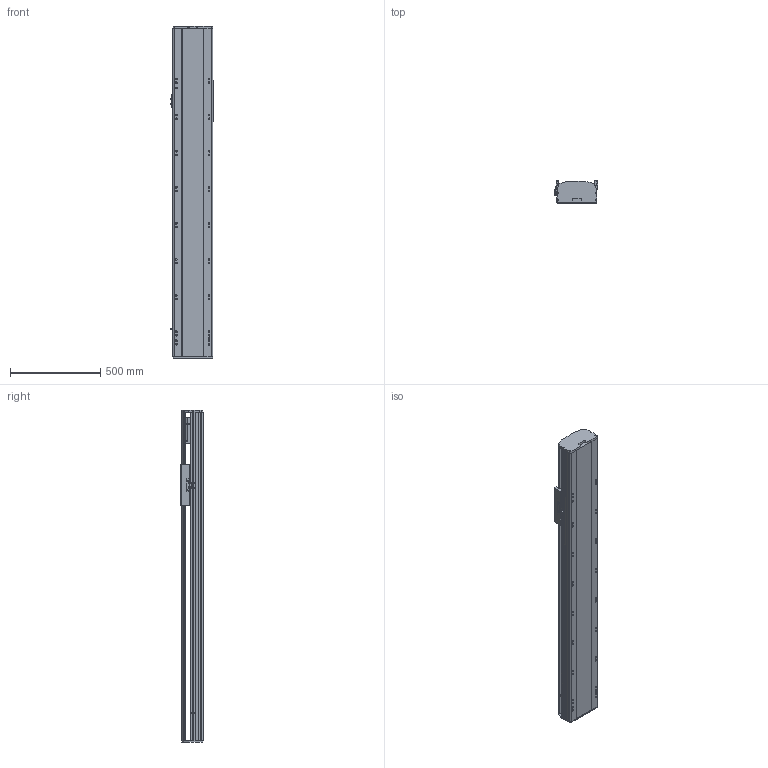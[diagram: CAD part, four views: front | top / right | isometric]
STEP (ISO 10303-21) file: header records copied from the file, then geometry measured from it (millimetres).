
FILE_DESCRIPTION (( 'STEP AP214' ), '1' );
FILE_NAME ('RTH22-XX-1250-B-M75-C4.STEP', '2025-10-24T10:34:19', ( 'Microsoft' ), ( 'Microsoft' ), 'SwSTEP 2.0', 'SolidWorks 2018', '' );
FILE_SCHEMA (( 'AUTOMOTIVE_DESIGN' ));
Length unit declared in the file: millimetre
Products named in the file (9): N_RTH22-GY-013外置感应片^RTH22-XX-XX-B-M75-C4; N_RTH22-B-008萇儂啣^RTH22-XX-XX-B-M75-C4; N_OMRON EE-SX672 传感器^RTH22-XX-XX-B-M75-C4; N_RTH22-GY-001耜裔^RTH22-XX-XX-B-M75-C4; N_750W萇儂^RTH22-XX-XX-B-M75-C4; N_RTH22-B-007奻裔^RTH22-XX-XX-B-M75-C4; N_RTH22-B-011菁釱^RTH22-XX-XX-B-M75-C4; RTH22-XX-1250-B-M75-C4; N_RTH22-E-004-SFS25賑釱^RTH22-XX-XX-B-M75-C4
Assembly tree (10 placements, depth 2):
  RTH22-XX-1250-B-M75-C4
    N_RTH22-B-011菁釱^RTH22-XX-XX-B-M75-C4
    N_RTH22-GY-001耜裔^RTH22-XX-XX-B-M75-C4
    N_750W萇儂^RTH22-XX-XX-B-M75-C4
    N_RTH22-B-008萇儂啣^RTH22-XX-XX-B-M75-C4
    N_RTH22-B-007奻裔^RTH22-XX-XX-B-M75-C4
    N_OMRON EE-SX672 传感器^RTH22-XX-XX-B-M75-C4  x3
    N_RTH22-GY-013外置感应片^RTH22-XX-XX-B-M75-C4
    N_RTH22-E-004-SFS25賑釱^RTH22-XX-XX-B-M75-C4
Bounding box: 238.5 x 122 x 1840 mm (x, y, z)
Volume: 24398606.6 mm3; surface area: 2504022.4 mm2
Topology: 10 solids, 10 shells, 1569 faces, 4300 edges, 2773 vertices
Faces by surface type: plane 758, cylinder 466, bspline 279, cone 66
Entity records: 39407 total; most frequent: CARTESIAN_POINT 12141, ORIENTED_EDGE 5560, DIRECTION 5258, EDGE_CURVE 2780, VERTEX_POINT 1809, AXIS2_PLACEMENT_3D 1786, LINE 1686, VECTOR 1686
